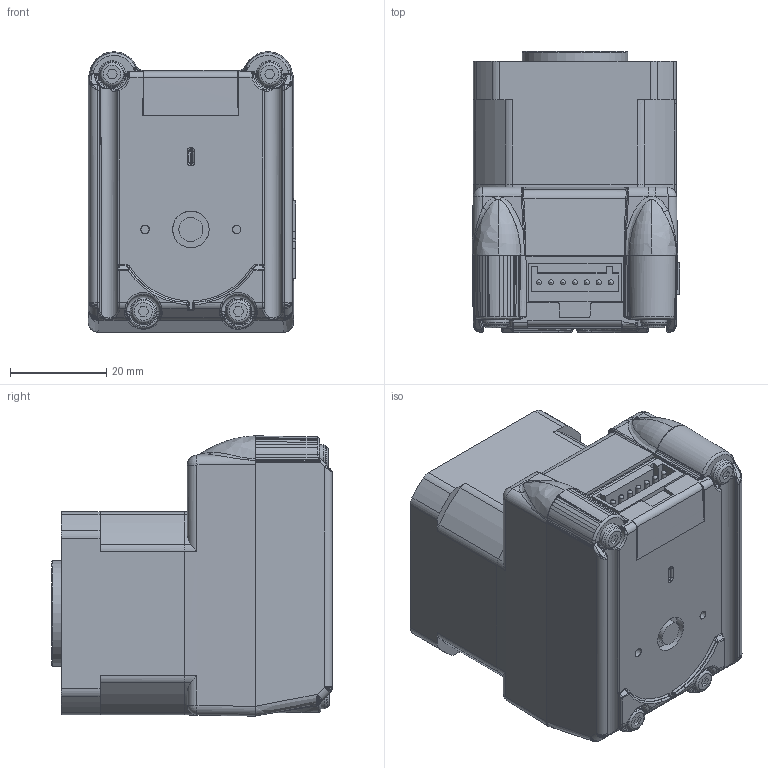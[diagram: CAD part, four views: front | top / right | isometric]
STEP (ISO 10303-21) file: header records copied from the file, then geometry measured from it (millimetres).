
FILE_DESCRIPTION(('MDrive17Plus_Linear_Std_Motor_Single'),'1');
FILE_NAME('MDrive17Plus_Linear_Std_Motor_Single.stp','2010-12-15T21:12:05',('KeyCreator USER'),('Kubotek USA, Inc.'),'Spatial Interop R20 SP1','Kubotek KeyCreator V9.0.3 (16864)','KC');
FILE_SCHEMA(('automotive_design'));
Length unit declared in the file: inch
Products named in the file (1): 1
Bounding box: 43.22 x 58.43 x 58.31 mm (x, y, z)
Volume: 110124.7 mm3; surface area: 16243.5 mm2
Topology: 1 solids, 1 shells, 1247 faces, 3292 edges, 2058 vertices
Faces by surface type: plane 478, bspline 477, cylinder 218, torus 35, sphere 23, cone 16
Full cylindrical faces by diameter (mm): 1.041 x7, 2.5 x4, 2.769 x4, 4.999 x2, 5.588 x4, 9.525 x1, 21.996 x1
Entity records: 108676 total; most frequent: CARTESIAN_POINT 44722, PRESENTATION_STYLE_ASSIGNMENT 7384, COLOUR_RGB 7384, ORIENTED_EDGE 6386, STYLED_ITEM 6150, CURVE_STYLE 4427, DRAUGHTING_PRE_DEFINED_CURVE_FONT 4427, EDGE_CURVE 3193
